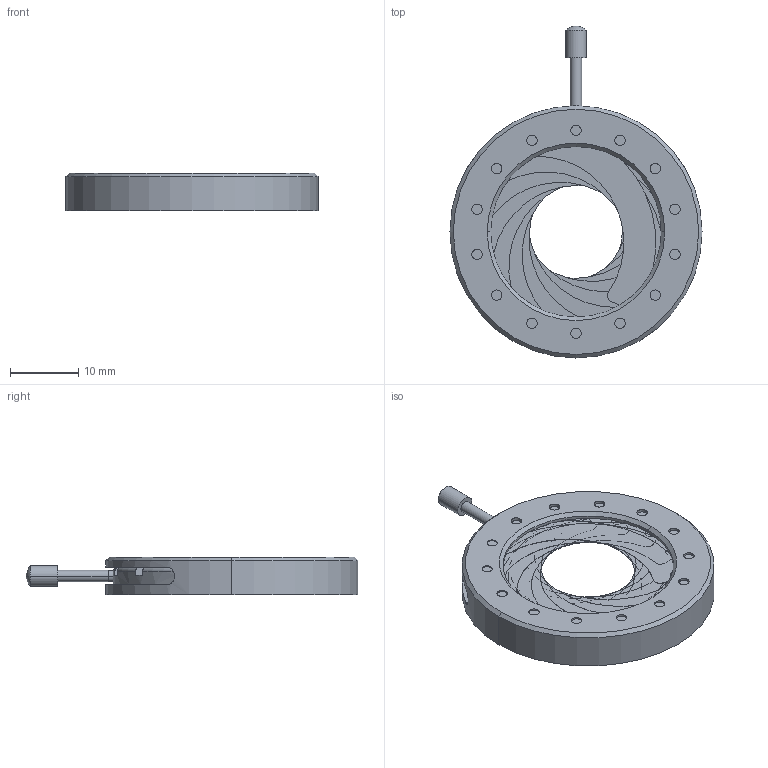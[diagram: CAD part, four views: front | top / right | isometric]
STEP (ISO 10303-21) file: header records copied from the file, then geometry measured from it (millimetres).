
FILE_DESCRIPTION (( 'STEP AP214' ), '1' );
FILE_NAME ('0595-E0W.STEP', '2023-02-20T18:49:45', ( '' ), ( '' ), 'SwSTEP 2.0', 'SolidWorks 2022', '' );
FILE_SCHEMA (( 'AUTOMOTIVE_DESIGN' ));
Length unit declared in the file: millimetre
Products named in the file (1): 0595-E0W
Bounding box: 37.02 x 48.74 x 5.56 mm (x, y, z)
Volume: 1857 mm3; surface area: 8628.1 mm2
Topology: 17 solids, 17 shells, 350 faces, 854 edges, 567 vertices
Faces by surface type: cylinder 190, plane 136, torus 14, cone 8, sphere 2
Entity records: 14792 total; most frequent: CARTESIAN_POINT 2050, DIRECTION 1970, ORIENTED_EDGE 1708, EDGE_CURVE 854, AXIS2_PLACEMENT_3D 807, VERTEX_POINT 567, CIRCLE 456, EDGE_LOOP 415
